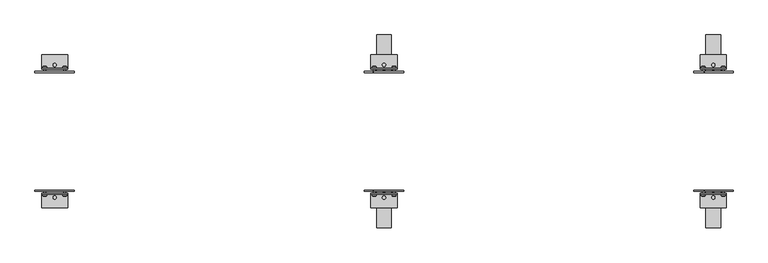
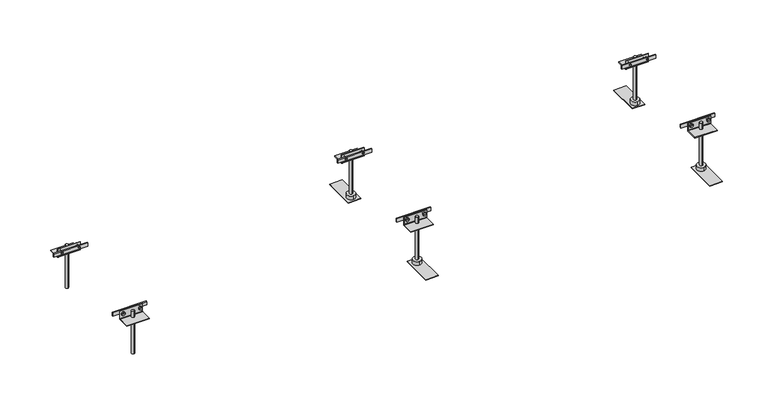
"""IFC4 building model written with IfcOpenShell, lengths in millimetres: proxy geometry, Electrical_Installation_Hager_BKF-Trunking-System-With-Flexible-Screed-Casing-For-Dry-Cleaned-Floors : Nominal Size 300  Length 2.4 m."""

from ifc_helpers import new_model, si_unit, point, frame, frame_2d, origin, place, context, project, spatial, polyline, circle_curve, ellipse_curve, trimmed, segment, composite_curve, outline, extrude, source, transform, mapped, element, save
from ifc_brep_helpers import plane_surface, cylinder_surface, revolved_surface, advanced_brep


def electrical_fixtures_acb858e2(model_context):
    return source(origin(), model_context, "Body", "SolidModel", [
        advanced_brep(
        [(1629.0575247, -156.6418922, 3.3), (1619.4769168, -156.6418922, 3.3), (1619.4769168, -154.7, 3.3), (1629.0575247, -154.7, 3.3), (1621.7042517, -154.7, 3.3), (1626.8301898, -154.7, 3.3), (1621.7042517, -142.7, 3.3), (1626.8301898, -142.7, 3.3), (1624.2672208, -142.7, 3.3), (1624.2672208, -158.3479209, 3.3)],
        [
            (0, 1, circle_curve(frame((1624.2672208, -156.6418922, 3.3), z_axis=(0.0, 1.0, 0.0), x_axis=(-1.0, 0.0, 0.0)), 4.790304)),
            (1, 2),
            (2, 3, circle_curve(frame((1624.2672208, -154.7, 3.3), z_axis=(0.0, -1.0, 0.0), x_axis=(-1.0, 0.0, 0.0)), 4.790304)),
            (3, 0),
            (1, 0, circle_curve(frame((1624.2672208, -156.6418922, 3.3), z_axis=(0.0, 1.0, 0.0), x_axis=(-1.0, 0.0, 0.0)), 4.790304)),
            (3, 2, circle_curve(frame((1624.2672208, -154.7, 3.3), z_axis=(0.0, -1.0, 0.0), x_axis=(-1.0, 0.0, 0.0)), 4.790304)),
            (2, 4),
            (4, 5, circle_curve(frame((1624.2672208, -154.7, 3.3), z_axis=(0.0, -1.0, 0.0), x_axis=(-1.0, 0.0, 0.0)), 2.562969)),
            (5, 3),
            (5, 4, circle_curve(frame((1624.2672208, -154.7, 3.3), z_axis=(0.0, -1.0, 0.0), x_axis=(-1.0, 0.0, 0.0)), 2.562969)),
            (4, 6),
            (6, 7, circle_curve(frame((1624.2672208, -142.7, 3.3), z_axis=(0.0, -1.0, 0.0), x_axis=(-1.0, 0.0, 0.0)), 2.562969)),
            (7, 5),
            (7, 6, circle_curve(frame((1624.2672208, -142.7, 3.3), z_axis=(0.0, -1.0, 0.0), x_axis=(-1.0, 0.0, 0.0)), 2.562969)),
            (6, 8),
            (8, 7),
            (9, 1, circle_curve(frame((1624.2353142, -150.8592246, 3.3), z_axis=(0.0, 0.0, -1.0), x_axis=(-1.0, 0.0, 0.0)), 7.4887643)),
            (0, 9, circle_curve(frame((1624.2991274, -150.8592246, 3.3), z_axis=(0.0, 0.0, -1.0), x_axis=(1.0, 0.0, 0.0)), 7.4887643)),
        ],
        [
            cylinder_surface(frame((1624.2672208, -154.2950786, 3.3), z_axis=(0.0, -1.0, 0.0), x_axis=(-1.0, 0.0, 0.0)), 4.790304),
            plane_surface(frame((1624.2672208, -154.7, 3.3), z_axis=(0.0, 1.0, 0.0), x_axis=(-1.0, 0.0, 0.0))),
            cylinder_surface(frame((1624.2672208, -154.2950786, 3.3), z_axis=(0.0, -1.0, 0.0), x_axis=(-1.0, 0.0, 0.0)), 2.562969),
            plane_surface(frame((1624.2672208, -142.7, 3.3), z_axis=(0.0, 1.0, 0.0), x_axis=(-1.0, 0.0, 0.0))),
            revolved_surface(trimmed(ellipse_curve(frame((1624.2353142, -150.8592246, 3.3), z_axis=(0.0, 0.0, 1.0), x_axis=(-1.0, 0.0, 0.0)), 7.4887643, 7.4887643), [point((1619.4769168, -156.6418922, 3.3))], [point((1624.2672208, -158.3479209, 3.3))], True, "CARTESIAN"), (1624.2672208, -154.2950786, 3.3), (0.0, -1.0, 0.0)),
        ],
        [
            (0, [[1, 2, 3, 4]]),
            (0, [[5, -4, 6, -2]]),
            (1, [[-3, 7, 8, 9]]),
            (1, [[-6, -9, 10, -7]]),
            (2, [[-8, 11, 12, 13]]),
            (2, [[-10, -13, 14, -11]]),
            (3, [[-12, 15, 16]]),
            (3, [[-14, -16, -15]]),
            (4, [[17, -1, 18]]),
            (4, [[-18, -5, -17]]),
        ],
    ),
        advanced_brep(
        [(1580.790304, -156.6418922, 3.3), (1571.209696, -156.6418922, 3.3), (1571.209696, -154.7, 3.3), (1580.790304, -154.7, 3.3), (1573.437031, -154.7, 3.3), (1578.562969, -154.7, 3.3), (1573.437031, -142.7, 3.3), (1578.562969, -142.7, 3.3), (1576.0, -142.7, 3.3), (1576.0, -158.3479209, 3.3)],
        [
            (0, 1, circle_curve(frame((1576.0, -156.6418922, 3.3), z_axis=(0.0, 1.0, 0.0), x_axis=(-1.0, 0.0, 0.0)), 4.790304)),
            (1, 2),
            (2, 3, circle_curve(frame((1576.0, -154.7, 3.3), z_axis=(0.0, -1.0, 0.0), x_axis=(-1.0, 0.0, 0.0)), 4.790304)),
            (3, 0),
            (1, 0, circle_curve(frame((1576.0, -156.6418922, 3.3), z_axis=(0.0, 1.0, 0.0), x_axis=(-1.0, 0.0, 0.0)), 4.790304)),
            (3, 2, circle_curve(frame((1576.0, -154.7, 3.3), z_axis=(0.0, -1.0, 0.0), x_axis=(-1.0, 0.0, 0.0)), 4.790304)),
            (2, 4),
            (4, 5, circle_curve(frame((1576.0, -154.7, 3.3), z_axis=(0.0, -1.0, 0.0), x_axis=(-1.0, 0.0, 0.0)), 2.562969)),
            (5, 3),
            (5, 4, circle_curve(frame((1576.0, -154.7, 3.3), z_axis=(0.0, -1.0, 0.0), x_axis=(-1.0, 0.0, 0.0)), 2.562969)),
            (4, 6),
            (6, 7, circle_curve(frame((1576.0, -142.7, 3.3), z_axis=(0.0, -1.0, 0.0), x_axis=(-1.0, 0.0, 0.0)), 2.562969)),
            (7, 5),
            (7, 6, circle_curve(frame((1576.0, -142.7, 3.3), z_axis=(0.0, -1.0, 0.0), x_axis=(-1.0, 0.0, 0.0)), 2.562969)),
            (6, 8),
            (8, 7),
            (9, 1, circle_curve(frame((1575.9680934, -150.8592246, 3.3), z_axis=(0.0, 0.0, -1.0), x_axis=(-1.0, 0.0, 0.0)), 7.4887643)),
            (0, 9, circle_curve(frame((1576.0319066, -150.8592246, 3.3), z_axis=(0.0, 0.0, -1.0), x_axis=(1.0, 0.0, 0.0)), 7.4887643)),
        ],
        [
            cylinder_surface(frame((1576.0, -154.2950786, 3.3), z_axis=(0.0, -1.0, 0.0), x_axis=(-1.0, 0.0, 0.0)), 4.790304),
            plane_surface(frame((1576.0, -154.7, 3.3), z_axis=(0.0, 1.0, 0.0), x_axis=(-1.0, 0.0, 0.0))),
            cylinder_surface(frame((1576.0, -154.2950786, 3.3), z_axis=(0.0, -1.0, 0.0), x_axis=(-1.0, 0.0, 0.0)), 2.562969),
            plane_surface(frame((1576.0, -142.7, 3.3), z_axis=(0.0, 1.0, 0.0), x_axis=(-1.0, 0.0, 0.0))),
            revolved_surface(trimmed(ellipse_curve(frame((1575.9680934, -150.8592246, 3.3), z_axis=(0.0, 0.0, 1.0), x_axis=(-1.0, 0.0, 0.0)), 7.4887643, 7.4887643), [point((1571.209696, -156.6418922, 3.3))], [point((1576.0, -158.3479209, 3.3))], True, "CARTESIAN"), (1576.0, -154.2950786, 3.3), (0.0, -1.0, 0.0)),
        ],
        [
            (0, [[1, 2, 3, 4]]),
            (0, [[5, -4, 6, -2]]),
            (1, [[-3, 7, 8, 9]]),
            (1, [[-6, -9, 10, -7]]),
            (2, [[-8, 11, 12, 13]]),
            (2, [[-10, -13, 14, -11]]),
            (3, [[-12, 15, 16]]),
            (3, [[-14, -16, -15]]),
            (4, [[17, -1, 18]]),
            (4, [[-18, -5, -17]]),
        ],
    ),
        advanced_brep(
        [(1629.0575247, 154.7, 3.3), (1619.4769168, 154.7, 3.3), (1619.4769168, 156.6418922, 3.3), (1629.0575247, 156.6418922, 3.3), (1626.8301898, 154.7, 3.3), (1621.7042517, 154.7, 3.3), (1626.8301898, 142.7, 3.3), (1621.7042517, 142.7, 3.3), (1624.2672208, 142.7, 3.3), (1624.2672208, 158.3479209, 3.3)],
        [
            (0, 1, circle_curve(frame((1624.2672208, 154.7, 3.3), z_axis=(0.0, 1.0, 0.0), x_axis=(-1.0, 0.0, 0.0)), 4.790304)),
            (1, 2),
            (2, 3, circle_curve(frame((1624.2672208, 156.6418922, 3.3), z_axis=(0.0, -1.0, 0.0), x_axis=(-1.0, 0.0, 0.0)), 4.790304)),
            (3, 0),
            (1, 0, circle_curve(frame((1624.2672208, 154.7, 3.3), z_axis=(0.0, 1.0, 0.0), x_axis=(-1.0, 0.0, 0.0)), 4.790304)),
            (3, 2, circle_curve(frame((1624.2672208, 156.6418922, 3.3), z_axis=(0.0, -1.0, 0.0), x_axis=(-1.0, 0.0, 0.0)), 4.790304)),
            (4, 5, circle_curve(frame((1624.2672208, 154.7, 3.3), z_axis=(0.0, 1.0, 0.0), x_axis=(-1.0, 0.0, 0.0)), 2.562969)),
            (5, 1),
            (0, 4),
            (5, 4, circle_curve(frame((1624.2672208, 154.7, 3.3), z_axis=(0.0, 1.0, 0.0), x_axis=(-1.0, 0.0, 0.0)), 2.562969)),
            (6, 7, circle_curve(frame((1624.2672208, 142.7, 3.3), z_axis=(0.0, 1.0, 0.0), x_axis=(-1.0, 0.0, 0.0)), 2.562969)),
            (7, 5),
            (4, 6),
            (7, 6, circle_curve(frame((1624.2672208, 142.7, 3.3), z_axis=(0.0, 1.0, 0.0), x_axis=(-1.0, 0.0, 0.0)), 2.562969)),
            (8, 7),
            (6, 8),
            (2, 9, circle_curve(frame((1624.2353142, 150.8592246, 3.3), z_axis=(0.0, 0.0, -1.0), x_axis=(-1.0, 0.0, 0.0)), 7.4887643)),
            (9, 3, circle_curve(frame((1624.2991274, 150.8592246, 3.3), z_axis=(0.0, 0.0, -1.0), x_axis=(1.0, 0.0, 0.0)), 7.4887643)),
        ],
        [
            cylinder_surface(frame((1624.2672208, 154.2950786, 3.3), z_axis=(0.0, -1.0, 0.0), x_axis=(-1.0, 0.0, 0.0)), 4.790304),
            plane_surface(frame((1624.2672208, 154.7, 3.3), z_axis=(0.0, -1.0, 0.0), x_axis=(-1.0, 0.0, 0.0))),
            cylinder_surface(frame((1624.2672208, 154.2950786, 3.3), z_axis=(0.0, -1.0, 0.0), x_axis=(-1.0, 0.0, 0.0)), 2.562969),
            plane_surface(frame((1624.2672208, 142.7, 3.3), z_axis=(0.0, -1.0, 0.0), x_axis=(-1.0, 0.0, 0.0))),
            revolved_surface(trimmed(ellipse_curve(frame((1624.2353142, 150.8592246, 3.3), z_axis=(0.0, 0.0, 1.0), x_axis=(-1.0, 0.0, 0.0)), 7.4887643, 7.4887643), [point((1624.2672208, 158.3479209, 3.3))], [point((1619.4769168, 156.6418922, 3.3))], True, "CARTESIAN"), (1624.2672208, 154.2950786, 3.3), (0.0, -1.0, 0.0)),
        ],
        [
            (0, [[1, 2, 3, 4]]),
            (0, [[5, -4, 6, -2]]),
            (1, [[7, 8, -1, 9]]),
            (1, [[10, -9, -5, -8]]),
            (2, [[11, 12, -7, 13]]),
            (2, [[14, -13, -10, -12]]),
            (3, [[15, -11, 16]]),
            (3, [[-16, -14, -15]]),
            (4, [[-3, 17, 18]]),
            (4, [[-6, -18, -17]]),
        ],
    ),
        advanced_brep(
        [(1580.790304, 154.7, 3.3), (1571.209696, 154.7, 3.3), (1571.209696, 156.6418922, 3.3), (1580.790304, 156.6418922, 3.3), (1578.562969, 154.7, 3.3), (1573.437031, 154.7, 3.3), (1578.562969, 142.7, 3.3), (1573.437031, 142.7, 3.3), (1576.0, 142.7, 3.3), (1576.0, 158.3479209, 3.3)],
        [
            (0, 1, circle_curve(frame((1576.0, 154.7, 3.3), z_axis=(0.0, 1.0, 0.0), x_axis=(-1.0, 0.0, 0.0)), 4.790304)),
            (1, 2),
            (2, 3, circle_curve(frame((1576.0, 156.6418922, 3.3), z_axis=(0.0, -1.0, 0.0), x_axis=(-1.0, 0.0, 0.0)), 4.790304)),
            (3, 0),
            (1, 0, circle_curve(frame((1576.0, 154.7, 3.3), z_axis=(0.0, 1.0, 0.0), x_axis=(-1.0, 0.0, 0.0)), 4.790304)),
            (3, 2, circle_curve(frame((1576.0, 156.6418922, 3.3), z_axis=(0.0, -1.0, 0.0), x_axis=(-1.0, 0.0, 0.0)), 4.790304)),
            (4, 5, circle_curve(frame((1576.0, 154.7, 3.3), z_axis=(0.0, 1.0, 0.0), x_axis=(-1.0, 0.0, 0.0)), 2.562969)),
            (5, 1),
            (0, 4),
            (5, 4, circle_curve(frame((1576.0, 154.7, 3.3), z_axis=(0.0, 1.0, 0.0), x_axis=(-1.0, 0.0, 0.0)), 2.562969)),
            (6, 7, circle_curve(frame((1576.0, 142.7, 3.3), z_axis=(0.0, 1.0, 0.0), x_axis=(-1.0, 0.0, 0.0)), 2.562969)),
            (7, 5),
            (4, 6),
            (7, 6, circle_curve(frame((1576.0, 142.7, 3.3), z_axis=(0.0, 1.0, 0.0), x_axis=(-1.0, 0.0, 0.0)), 2.562969)),
            (8, 7),
            (6, 8),
            (2, 9, circle_curve(frame((1575.9680934, 150.8592246, 3.3), z_axis=(0.0, 0.0, -1.0), x_axis=(-1.0, 0.0, 0.0)), 7.4887643)),
            (9, 3, circle_curve(frame((1576.0319066, 150.8592246, 3.3), z_axis=(0.0, 0.0, -1.0), x_axis=(1.0, 0.0, 0.0)), 7.4887643)),
        ],
        [
            cylinder_surface(frame((1576.0, 154.2950786, 3.3), z_axis=(0.0, -1.0, 0.0), x_axis=(-1.0, 0.0, 0.0)), 4.790304),
            plane_surface(frame((1576.0, 154.7, 3.3), z_axis=(0.0, -1.0, 0.0), x_axis=(-1.0, 0.0, 0.0))),
            cylinder_surface(frame((1576.0, 154.2950786, 3.3), z_axis=(0.0, -1.0, 0.0), x_axis=(-1.0, 0.0, 0.0)), 2.562969),
            plane_surface(frame((1576.0, 142.7, 3.3), z_axis=(0.0, -1.0, 0.0), x_axis=(-1.0, 0.0, 0.0))),
            revolved_surface(trimmed(ellipse_curve(frame((1575.9680934, 150.8592246, 3.3), z_axis=(0.0, 0.0, 1.0), x_axis=(-1.0, 0.0, 0.0)), 7.4887643, 7.4887643), [point((1576.0, 158.3479209, 3.3))], [point((1571.209696, 156.6418922, 3.3))], True, "CARTESIAN"), (1576.0, 154.2950786, 3.3), (0.0, -1.0, 0.0)),
        ],
        [
            (0, [[1, 2, 3, 4]]),
            (0, [[5, -4, 6, -2]]),
            (1, [[7, 8, -1, 9]]),
            (1, [[10, -9, -5, -8]]),
            (2, [[11, 12, -7, 13]]),
            (2, [[14, -13, -10, -12]]),
            (3, [[15, -11, 16]]),
            (3, [[-16, -14, -15]]),
            (4, [[-3, 17, 18]]),
            (4, [[-6, -18, -17]]),
        ],
    ),
        extrude(outline(polyline([(1552.0, 142.7), (1552.0, 145.7), (1648.0, 145.7), (1648.0, 142.7), (1552.0, 142.7)])), frame((0.0, 0.0, -1.7), z_axis=(0.0, 0.0, 1.0), x_axis=(1.0, 0.0, 0.0)), (0.0, 0.0, 1.0), 10.0),
        extrude(outline(polyline([(1552.0, -145.7), (1552.0, -142.7), (1648.0, -142.7), (1648.0, -145.7), (1552.0, -145.7)])), frame((0.0, 0.0, -1.7), z_axis=(0.0, 0.0, 1.0), x_axis=(1.0, 0.0, 0.0)), (0.0, 0.0, 1.0), 10.0),
        extrude(outline(composite_curve([segment(polyline([(150.6, 11.7), (152.6, 11.7), (152.6, -10.3088822)]), True, "CONTINUOUS"), segment(trimmed(circle_curve(frame_2d((153.5911178, -10.3088822)), 0.9911178), [point((152.6, -10.3088822))], [point((153.5911178, -11.3))], True, "CARTESIAN"), True, "CONTINUOUS"), segment(polyline([(153.5911178, -11.3), (185.6, -11.3), (185.6, -13.3), (153.6002521, -13.3)]), True, "CONTINUOUS"), segment(trimmed(circle_curve(frame_2d((153.6002521, -10.2997479)), 3.0002521), [point((153.6002521, -13.3))], [point((150.6, -10.2997479))], False, "CARTESIAN"), True, "CONTINUOUS"), segment(polyline([(150.6, -10.2997479), (150.6, 11.7)]), True, "CONTINUOUS")], self_intersect=False)), frame((1568.3, 0.0, 0.0), z_axis=(1.0, 0.0, 0.0), x_axis=(0.0, 1.0, 0.0)), (0.0, 0.0, 1.0), 63.4),
        extrude(outline(composite_curve([segment(polyline([(-150.6, 11.7), (-150.6, -10.2997479)]), True, "CONTINUOUS"), segment(trimmed(circle_curve(frame_2d((-153.6002521, -10.2997479)), 3.0002521), [point((-150.6, -10.2997479))], [point((-153.6002521, -13.3))], False, "CARTESIAN"), True, "CONTINUOUS"), segment(polyline([(-153.6002521, -13.3), (-185.6, -13.3), (-185.6, -11.3), (-153.5911178, -11.3)]), True, "CONTINUOUS"), segment(trimmed(circle_curve(frame_2d((-153.5911178, -10.3088822)), 0.9911178), [point((-153.5911178, -11.3))], [point((-152.6, -10.3088822))], True, "CARTESIAN"), True, "CONTINUOUS"), segment(polyline([(-152.6, -10.3088822), (-152.6, 11.7), (-150.6, 11.7)]), True, "CONTINUOUS")], self_intersect=False)), frame((1568.3, 0.0, 0.0), z_axis=(1.0, 0.0, 0.0), x_axis=(0.0, 1.0, 0.0)), (0.0, 0.0, 1.0), 63.4),
        extrude(outline(composite_curve([segment(trimmed(circle_curve(frame_2d((1600.0, 161.1712378)), 3.9923162), [point((1600.0, 165.163554))], [point((1600.0, 157.1789216))], False, "CARTESIAN"), True, "CONTINUOUS"), segment(trimmed(circle_curve(frame_2d((1600.0, 161.1712378)), 3.9923162), [point((1600.0, 157.1789216))], [point((1600.0, 165.163554))], False, "CARTESIAN"), True, "CONTINUOUS")], self_intersect=False)), frame((0.0, 0.0, -119.0), z_axis=(0.0, 0.0, 1.0), x_axis=(1.0, 0.0, 0.0)), (0.0, 0.0, 1.0), 126.8),
        extrude(outline(composite_curve([segment(trimmed(circle_curve(frame_2d((1600.0, -161.0787011)), 3.991847), [point((1600.0, -157.0868541))], [point((1600.0, -165.0705482))], False, "CARTESIAN"), True, "CONTINUOUS"), segment(trimmed(circle_curve(frame_2d((1600.0, -161.0787011)), 3.991847), [point((1600.0, -165.0705482))], [point((1600.0, -157.0868541))], False, "CARTESIAN"), True, "CONTINUOUS")], self_intersect=False)), frame((0.0, 0.0, -119.0), z_axis=(0.0, 0.0, 1.0), x_axis=(1.0, 0.0, 0.0)), (0.0, 0.0, 1.0), 126.8),
        extrude(outline(composite_curve([segment(trimmed(circle_curve(frame_2d((1600.0, 161.1652527)), 12.0), [point((1600.0, 173.1652527))], [point((1600.0, 149.1652527))], False, "CARTESIAN"), True, "CONTINUOUS"), segment(trimmed(circle_curve(frame_2d((1600.0, 161.1652527)), 12.0), [point((1600.0, 149.1652527))], [point((1600.0, 173.1652527))], False, "CARTESIAN"), True, "CONTINUOUS")], self_intersect=False)), frame((0.0, 0.0, -129.7), z_axis=(0.0, 0.0, 1.0), x_axis=(1.0, 0.0, 0.0)), (0.0, 0.0, 1.0), 10.7),
        extrude(outline(composite_curve([segment(trimmed(circle_curve(frame_2d((1600.0, -161.112037)), 12.0), [point((1600.0, -149.112037))], [point((1600.0, -173.112037))], False, "CARTESIAN"), True, "CONTINUOUS"), segment(trimmed(circle_curve(frame_2d((1600.0, -161.112037)), 12.0), [point((1600.0, -173.112037))], [point((1600.0, -149.112037))], False, "CARTESIAN"), True, "CONTINUOUS")], self_intersect=False)), frame((0.0, 0.0, -129.7), z_axis=(0.0, 0.0, 1.0), x_axis=(1.0, 0.0, 0.0)), (0.0, 0.0, 1.0), 10.7),
        extrude(outline(polyline([(1618.0, 144.1), (1582.0, 144.1), (1582.0, 234.1), (1618.0, 234.1), (1618.0, 144.1)])), frame((0.0, 0.0, -131.2), z_axis=(0.0, 0.0, 1.0), x_axis=(1.0, 0.0, 0.0)), (0.0, 0.0, 1.0), 1.5),
        extrude(outline(polyline([(1618.0, -234.1), (1582.0, -234.1), (1582.0, -144.1), (1618.0, -144.1), (1618.0, -234.1)])), frame((0.0, 0.0, -131.2), z_axis=(0.0, 0.0, 1.0), x_axis=(1.0, 0.0, 0.0)), (0.0, 0.0, 1.0), 1.5),
        advanced_brep(
        [(829.0575247, -156.6418922, 3.3), (819.4769168, -156.6418922, 3.3), (819.4769168, -154.7, 3.3), (829.0575247, -154.7, 3.3), (821.7042517, -154.7, 3.3), (826.8301898, -154.7, 3.3), (821.7042517, -142.7, 3.3), (826.8301898, -142.7, 3.3), (824.2672208, -142.7, 3.3), (824.2672208, -158.3479209, 3.3)],
        [
            (0, 1, circle_curve(frame((824.2672208, -156.6418922, 3.3), z_axis=(0.0, 1.0, 0.0), x_axis=(-1.0, 0.0, 0.0)), 4.790304)),
            (1, 2),
            (2, 3, circle_curve(frame((824.2672208, -154.7, 3.3), z_axis=(0.0, -1.0, 0.0), x_axis=(-1.0, 0.0, 0.0)), 4.790304)),
            (3, 0),
            (1, 0, circle_curve(frame((824.2672208, -156.6418922, 3.3), z_axis=(0.0, 1.0, 0.0), x_axis=(-1.0, 0.0, 0.0)), 4.790304)),
            (3, 2, circle_curve(frame((824.2672208, -154.7, 3.3), z_axis=(0.0, -1.0, 0.0), x_axis=(-1.0, 0.0, 0.0)), 4.790304)),
            (2, 4),
            (4, 5, circle_curve(frame((824.2672208, -154.7, 3.3), z_axis=(0.0, -1.0, 0.0), x_axis=(-1.0, 0.0, 0.0)), 2.562969)),
            (5, 3),
            (5, 4, circle_curve(frame((824.2672208, -154.7, 3.3), z_axis=(0.0, -1.0, 0.0), x_axis=(-1.0, 0.0, 0.0)), 2.562969)),
            (4, 6),
            (6, 7, circle_curve(frame((824.2672208, -142.7, 3.3), z_axis=(0.0, -1.0, 0.0), x_axis=(-1.0, 0.0, 0.0)), 2.562969)),
            (7, 5),
            (7, 6, circle_curve(frame((824.2672208, -142.7, 3.3), z_axis=(0.0, -1.0, 0.0), x_axis=(-1.0, 0.0, 0.0)), 2.562969)),
            (6, 8),
            (8, 7),
            (9, 1, circle_curve(frame((824.2353142, -150.8592246, 3.3), z_axis=(0.0, 0.0, -1.0), x_axis=(-1.0, 0.0, 0.0)), 7.4887643)),
            (0, 9, circle_curve(frame((824.2991274, -150.8592246, 3.3), z_axis=(0.0, 0.0, -1.0), x_axis=(1.0, 0.0, 0.0)), 7.4887643)),
        ],
        [
            cylinder_surface(frame((824.2672208, -154.2950786, 3.3), z_axis=(0.0, -1.0, 0.0), x_axis=(-1.0, 0.0, 0.0)), 4.790304),
            plane_surface(frame((824.2672208, -154.7, 3.3), z_axis=(0.0, 1.0, 0.0), x_axis=(-1.0, 0.0, 0.0))),
            cylinder_surface(frame((824.2672208, -154.2950786, 3.3), z_axis=(0.0, -1.0, 0.0), x_axis=(-1.0, 0.0, 0.0)), 2.562969),
            plane_surface(frame((824.2672208, -142.7, 3.3), z_axis=(0.0, 1.0, 0.0), x_axis=(-1.0, 0.0, 0.0))),
            revolved_surface(trimmed(ellipse_curve(frame((824.2353142, -150.8592246, 3.3), z_axis=(0.0, 0.0, 1.0), x_axis=(-1.0, 0.0, 0.0)), 7.4887643, 7.4887643), [point((819.4769168, -156.6418922, 3.3))], [point((824.2672208, -158.3479209, 3.3))], True, "CARTESIAN"), (824.2672208, -154.2950786, 3.3), (0.0, -1.0, 0.0)),
        ],
        [
            (0, [[1, 2, 3, 4]]),
            (0, [[5, -4, 6, -2]]),
            (1, [[-3, 7, 8, 9]]),
            (1, [[-6, -9, 10, -7]]),
            (2, [[-8, 11, 12, 13]]),
            (2, [[-10, -13, 14, -11]]),
            (3, [[-12, 15, 16]]),
            (3, [[-14, -16, -15]]),
            (4, [[17, -1, 18]]),
            (4, [[-18, -5, -17]]),
        ],
    ),
        advanced_brep(
        [(780.790304, -156.6418922, 3.3), (771.209696, -156.6418922, 3.3), (771.209696, -154.7, 3.3), (780.790304, -154.7, 3.3), (773.437031, -154.7, 3.3), (778.562969, -154.7, 3.3), (773.437031, -142.7, 3.3), (778.562969, -142.7, 3.3), (776.0, -142.7, 3.3), (776.0, -158.3479209, 3.3)],
        [
            (0, 1, circle_curve(frame((776.0, -156.6418922, 3.3), z_axis=(0.0, 1.0, 0.0), x_axis=(-1.0, 0.0, 0.0)), 4.790304)),
            (1, 2),
            (2, 3, circle_curve(frame((776.0, -154.7, 3.3), z_axis=(0.0, -1.0, 0.0), x_axis=(-1.0, 0.0, 0.0)), 4.790304)),
            (3, 0),
            (1, 0, circle_curve(frame((776.0, -156.6418922, 3.3), z_axis=(0.0, 1.0, 0.0), x_axis=(-1.0, 0.0, 0.0)), 4.790304)),
            (3, 2, circle_curve(frame((776.0, -154.7, 3.3), z_axis=(0.0, -1.0, 0.0), x_axis=(-1.0, 0.0, 0.0)), 4.790304)),
            (2, 4),
            (4, 5, circle_curve(frame((776.0, -154.7, 3.3), z_axis=(0.0, -1.0, 0.0), x_axis=(-1.0, 0.0, 0.0)), 2.562969)),
            (5, 3),
            (5, 4, circle_curve(frame((776.0, -154.7, 3.3), z_axis=(0.0, -1.0, 0.0), x_axis=(-1.0, 0.0, 0.0)), 2.562969)),
            (4, 6),
            (6, 7, circle_curve(frame((776.0, -142.7, 3.3), z_axis=(0.0, -1.0, 0.0), x_axis=(-1.0, 0.0, 0.0)), 2.562969)),
            (7, 5),
            (7, 6, circle_curve(frame((776.0, -142.7, 3.3), z_axis=(0.0, -1.0, 0.0), x_axis=(-1.0, 0.0, 0.0)), 2.562969)),
            (6, 8),
            (8, 7),
            (9, 1, circle_curve(frame((775.9680934, -150.8592246, 3.3), z_axis=(0.0, 0.0, -1.0), x_axis=(-1.0, 0.0, 0.0)), 7.4887643)),
            (0, 9, circle_curve(frame((776.0319066, -150.8592246, 3.3), z_axis=(0.0, 0.0, -1.0), x_axis=(1.0, 0.0, 0.0)), 7.4887643)),
        ],
        [
            cylinder_surface(frame((776.0, -154.2950786, 3.3), z_axis=(0.0, -1.0, 0.0), x_axis=(-1.0, 0.0, 0.0)), 4.790304),
            plane_surface(frame((776.0, -154.7, 3.3), z_axis=(0.0, 1.0, 0.0), x_axis=(-1.0, 0.0, 0.0))),
            cylinder_surface(frame((776.0, -154.2950786, 3.3), z_axis=(0.0, -1.0, 0.0), x_axis=(-1.0, 0.0, 0.0)), 2.562969),
            plane_surface(frame((776.0, -142.7, 3.3), z_axis=(0.0, 1.0, 0.0), x_axis=(-1.0, 0.0, 0.0))),
            revolved_surface(trimmed(ellipse_curve(frame((775.9680934, -150.8592246, 3.3), z_axis=(0.0, 0.0, 1.0), x_axis=(-1.0, 0.0, 0.0)), 7.4887643, 7.4887643), [point((771.209696, -156.6418922, 3.3))], [point((776.0, -158.3479209, 3.3))], True, "CARTESIAN"), (776.0, -154.2950786, 3.3), (0.0, -1.0, 0.0)),
        ],
        [
            (0, [[1, 2, 3, 4]]),
            (0, [[5, -4, 6, -2]]),
            (1, [[-3, 7, 8, 9]]),
            (1, [[-6, -9, 10, -7]]),
            (2, [[-8, 11, 12, 13]]),
            (2, [[-10, -13, 14, -11]]),
            (3, [[-12, 15, 16]]),
            (3, [[-14, -16, -15]]),
            (4, [[17, -1, 18]]),
            (4, [[-18, -5, -17]]),
        ],
    ),
        advanced_brep(
        [(829.0575247, 154.7, 3.3), (819.4769168, 154.7, 3.3), (819.4769168, 156.6418922, 3.3), (829.0575247, 156.6418922, 3.3), (826.8301898, 154.7, 3.3), (821.7042517, 154.7, 3.3), (826.8301898, 142.7, 3.3), (821.7042517, 142.7, 3.3), (824.2672208, 142.7, 3.3), (824.2672208, 158.3479209, 3.3)],
        [
            (0, 1, circle_curve(frame((824.2672208, 154.7, 3.3), z_axis=(0.0, 1.0, 0.0), x_axis=(-1.0, 0.0, 0.0)), 4.790304)),
            (1, 2),
            (2, 3, circle_curve(frame((824.2672208, 156.6418922, 3.3), z_axis=(0.0, -1.0, 0.0), x_axis=(-1.0, 0.0, 0.0)), 4.790304)),
            (3, 0),
            (1, 0, circle_curve(frame((824.2672208, 154.7, 3.3), z_axis=(0.0, 1.0, 0.0), x_axis=(-1.0, 0.0, 0.0)), 4.790304)),
            (3, 2, circle_curve(frame((824.2672208, 156.6418922, 3.3), z_axis=(0.0, -1.0, 0.0), x_axis=(-1.0, 0.0, 0.0)), 4.790304)),
            (4, 5, circle_curve(frame((824.2672208, 154.7, 3.3), z_axis=(0.0, 1.0, 0.0), x_axis=(-1.0, 0.0, 0.0)), 2.562969)),
            (5, 1),
            (0, 4),
            (5, 4, circle_curve(frame((824.2672208, 154.7, 3.3), z_axis=(0.0, 1.0, 0.0), x_axis=(-1.0, 0.0, 0.0)), 2.562969)),
            (6, 7, circle_curve(frame((824.2672208, 142.7, 3.3), z_axis=(0.0, 1.0, 0.0), x_axis=(-1.0, 0.0, 0.0)), 2.562969)),
            (7, 5),
            (4, 6),
            (7, 6, circle_curve(frame((824.2672208, 142.7, 3.3), z_axis=(0.0, 1.0, 0.0), x_axis=(-1.0, 0.0, 0.0)), 2.562969)),
            (8, 7),
            (6, 8),
            (2, 9, circle_curve(frame((824.2353142, 150.8592246, 3.3), z_axis=(0.0, 0.0, -1.0), x_axis=(-1.0, 0.0, 0.0)), 7.4887643)),
            (9, 3, circle_curve(frame((824.2991274, 150.8592246, 3.3), z_axis=(0.0, 0.0, -1.0), x_axis=(1.0, 0.0, 0.0)), 7.4887643)),
        ],
        [
            cylinder_surface(frame((824.2672208, 154.2950786, 3.3), z_axis=(0.0, -1.0, 0.0), x_axis=(-1.0, 0.0, 0.0)), 4.790304),
            plane_surface(frame((824.2672208, 154.7, 3.3), z_axis=(0.0, -1.0, 0.0), x_axis=(-1.0, 0.0, 0.0))),
            cylinder_surface(frame((824.2672208, 154.2950786, 3.3), z_axis=(0.0, -1.0, 0.0), x_axis=(-1.0, 0.0, 0.0)), 2.562969),
            plane_surface(frame((824.2672208, 142.7, 3.3), z_axis=(0.0, -1.0, 0.0), x_axis=(-1.0, 0.0, 0.0))),
            revolved_surface(trimmed(ellipse_curve(frame((824.2353142, 150.8592246, 3.3), z_axis=(0.0, 0.0, 1.0), x_axis=(-1.0, 0.0, 0.0)), 7.4887643, 7.4887643), [point((824.2672208, 158.3479209, 3.3))], [point((819.4769168, 156.6418922, 3.3))], True, "CARTESIAN"), (824.2672208, 154.2950786, 3.3), (0.0, -1.0, 0.0)),
        ],
        [
            (0, [[1, 2, 3, 4]]),
            (0, [[5, -4, 6, -2]]),
            (1, [[7, 8, -1, 9]]),
            (1, [[10, -9, -5, -8]]),
            (2, [[11, 12, -7, 13]]),
            (2, [[14, -13, -10, -12]]),
            (3, [[15, -11, 16]]),
            (3, [[-16, -14, -15]]),
            (4, [[-3, 17, 18]]),
            (4, [[-6, -18, -17]]),
        ],
    ),
        advanced_brep(
        [(780.790304, 154.7, 3.3), (771.209696, 154.7, 3.3), (771.209696, 156.6418922, 3.3), (780.790304, 156.6418922, 3.3), (778.562969, 154.7, 3.3), (773.437031, 154.7, 3.3), (778.562969, 142.7, 3.3), (773.437031, 142.7, 3.3), (776.0, 142.7, 3.3), (776.0, 158.3479209, 3.3)],
        [
            (0, 1, circle_curve(frame((776.0, 154.7, 3.3), z_axis=(0.0, 1.0, 0.0), x_axis=(-1.0, 0.0, 0.0)), 4.790304)),
            (1, 2),
            (2, 3, circle_curve(frame((776.0, 156.6418922, 3.3), z_axis=(0.0, -1.0, 0.0), x_axis=(-1.0, 0.0, 0.0)), 4.790304)),
            (3, 0),
            (1, 0, circle_curve(frame((776.0, 154.7, 3.3), z_axis=(0.0, 1.0, 0.0), x_axis=(-1.0, 0.0, 0.0)), 4.790304)),
            (3, 2, circle_curve(frame((776.0, 156.6418922, 3.3), z_axis=(0.0, -1.0, 0.0), x_axis=(-1.0, 0.0, 0.0)), 4.790304)),
            (4, 5, circle_curve(frame((776.0, 154.7, 3.3), z_axis=(0.0, 1.0, 0.0), x_axis=(-1.0, 0.0, 0.0)), 2.562969)),
            (5, 1),
            (0, 4),
            (5, 4, circle_curve(frame((776.0, 154.7, 3.3), z_axis=(0.0, 1.0, 0.0), x_axis=(-1.0, 0.0, 0.0)), 2.562969)),
            (6, 7, circle_curve(frame((776.0, 142.7, 3.3), z_axis=(0.0, 1.0, 0.0), x_axis=(-1.0, 0.0, 0.0)), 2.562969)),
            (7, 5),
            (4, 6),
            (7, 6, circle_curve(frame((776.0, 142.7, 3.3), z_axis=(0.0, 1.0, 0.0), x_axis=(-1.0, 0.0, 0.0)), 2.562969)),
            (8, 7),
            (6, 8),
            (2, 9, circle_curve(frame((775.9680934, 150.8592246, 3.3), z_axis=(0.0, 0.0, -1.0), x_axis=(-1.0, 0.0, 0.0)), 7.4887643)),
            (9, 3, circle_curve(frame((776.0319066, 150.8592246, 3.3), z_axis=(0.0, 0.0, -1.0), x_axis=(1.0, 0.0, 0.0)), 7.4887643)),
        ],
        [
            cylinder_surface(frame((776.0, 154.2950786, 3.3), z_axis=(0.0, -1.0, 0.0), x_axis=(-1.0, 0.0, 0.0)), 4.790304),
            plane_surface(frame((776.0, 154.7, 3.3), z_axis=(0.0, -1.0, 0.0), x_axis=(-1.0, 0.0, 0.0))),
            cylinder_surface(frame((776.0, 154.2950786, 3.3), z_axis=(0.0, -1.0, 0.0), x_axis=(-1.0, 0.0, 0.0)), 2.562969),
            plane_surface(frame((776.0, 142.7, 3.3), z_axis=(0.0, -1.0, 0.0), x_axis=(-1.0, 0.0, 0.0))),
            revolved_surface(trimmed(ellipse_curve(frame((775.9680934, 150.8592246, 3.3), z_axis=(0.0, 0.0, 1.0), x_axis=(-1.0, 0.0, 0.0)), 7.4887643, 7.4887643), [point((776.0, 158.3479209, 3.3))], [point((771.209696, 156.6418922, 3.3))], True, "CARTESIAN"), (776.0, 154.2950786, 3.3), (0.0, -1.0, 0.0)),
        ],
        [
            (0, [[1, 2, 3, 4]]),
            (0, [[5, -4, 6, -2]]),
            (1, [[7, 8, -1, 9]]),
            (1, [[10, -9, -5, -8]]),
            (2, [[11, 12, -7, 13]]),
            (2, [[14, -13, -10, -12]]),
            (3, [[15, -11, 16]]),
            (3, [[-16, -14, -15]]),
            (4, [[-3, 17, 18]]),
            (4, [[-6, -18, -17]]),
        ],
    ),
        extrude(outline(polyline([(752.0, 142.7), (752.0, 145.7), (848.0, 145.7), (848.0, 142.7), (752.0, 142.7)])), frame((0.0, 0.0, -1.7), z_axis=(0.0, 0.0, 1.0), x_axis=(1.0, 0.0, 0.0)), (0.0, 0.0, 1.0), 10.0),
        extrude(outline(polyline([(752.0, -145.7), (752.0, -142.7), (848.0, -142.7), (848.0, -145.7), (752.0, -145.7)])), frame((0.0, 0.0, -1.7), z_axis=(0.0, 0.0, 1.0), x_axis=(1.0, 0.0, 0.0)), (0.0, 0.0, 1.0), 10.0),
        extrude(outline(composite_curve([segment(polyline([(150.6, 11.7), (152.6, 11.7), (152.6, -10.3088822)]), True, "CONTINUOUS"), segment(trimmed(circle_curve(frame_2d((153.5911178, -10.3088822)), 0.9911178), [point((152.6, -10.3088822))], [point((153.5911178, -11.3))], True, "CARTESIAN"), True, "CONTINUOUS"), segment(polyline([(153.5911178, -11.3), (185.6, -11.3), (185.6, -13.3), (153.6002521, -13.3)]), True, "CONTINUOUS"), segment(trimmed(circle_curve(frame_2d((153.6002521, -10.2997479)), 3.0002521), [point((153.6002521, -13.3))], [point((150.6, -10.2997479))], False, "CARTESIAN"), True, "CONTINUOUS"), segment(polyline([(150.6, -10.2997479), (150.6, 11.7)]), True, "CONTINUOUS")], self_intersect=False)), frame((768.3, 0.0, 0.0), z_axis=(1.0, 0.0, 0.0), x_axis=(0.0, 1.0, 0.0)), (0.0, 0.0, 1.0), 63.4),
        extrude(outline(composite_curve([segment(polyline([(-150.6, 11.7), (-150.6, -10.2997479)]), True, "CONTINUOUS"), segment(trimmed(circle_curve(frame_2d((-153.6002521, -10.2997479)), 3.0002521), [point((-150.6, -10.2997479))], [point((-153.6002521, -13.3))], False, "CARTESIAN"), True, "CONTINUOUS"), segment(polyline([(-153.6002521, -13.3), (-185.6, -13.3), (-185.6, -11.3), (-153.5911178, -11.3)]), True, "CONTINUOUS"), segment(trimmed(circle_curve(frame_2d((-153.5911178, -10.3088822)), 0.9911178), [point((-153.5911178, -11.3))], [point((-152.6, -10.3088822))], True, "CARTESIAN"), True, "CONTINUOUS"), segment(polyline([(-152.6, -10.3088822), (-152.6, 11.7), (-150.6, 11.7)]), True, "CONTINUOUS")], self_intersect=False)), frame((768.3, 0.0, 0.0), z_axis=(1.0, 0.0, 0.0), x_axis=(0.0, 1.0, 0.0)), (0.0, 0.0, 1.0), 63.4),
        extrude(outline(composite_curve([segment(trimmed(circle_curve(frame_2d((800.0, 161.1712378)), 3.9923162), [point((800.0, 165.163554))], [point((800.0, 157.1789216))], False, "CARTESIAN"), True, "CONTINUOUS"), segment(trimmed(circle_curve(frame_2d((800.0, 161.1712378)), 3.9923162), [point((800.0, 157.1789216))], [point((800.0, 165.163554))], False, "CARTESIAN"), True, "CONTINUOUS")], self_intersect=False)), frame((0.0, 0.0, -119.0), z_axis=(0.0, 0.0, 1.0), x_axis=(1.0, 0.0, 0.0)), (0.0, 0.0, 1.0), 126.8),
        extrude(outline(composite_curve([segment(trimmed(circle_curve(frame_2d((800.0, -161.0787011)), 3.991847), [point((800.0, -157.0868541))], [point((800.0, -165.0705482))], False, "CARTESIAN"), True, "CONTINUOUS"), segment(trimmed(circle_curve(frame_2d((800.0, -161.0787011)), 3.991847), [point((800.0, -165.0705482))], [point((800.0, -157.0868541))], False, "CARTESIAN"), True, "CONTINUOUS")], self_intersect=False)), frame((0.0, 0.0, -119.0), z_axis=(0.0, 0.0, 1.0), x_axis=(1.0, 0.0, 0.0)), (0.0, 0.0, 1.0), 126.8),
        extrude(outline(composite_curve([segment(trimmed(circle_curve(frame_2d((800.0, 161.1652527)), 12.0), [point((800.0, 173.1652527))], [point((800.0, 149.1652527))], False, "CARTESIAN"), True, "CONTINUOUS"), segment(trimmed(circle_curve(frame_2d((800.0, 161.1652527)), 12.0), [point((800.0, 149.1652527))], [point((800.0, 173.1652527))], False, "CARTESIAN"), True, "CONTINUOUS")], self_intersect=False)), frame((0.0, 0.0, -129.7), z_axis=(0.0, 0.0, 1.0), x_axis=(1.0, 0.0, 0.0)), (0.0, 0.0, 1.0), 10.7),
        extrude(outline(composite_curve([segment(trimmed(circle_curve(frame_2d((800.0, -161.112037)), 12.0), [point((800.0, -149.112037))], [point((800.0, -173.112037))], False, "CARTESIAN"), True, "CONTINUOUS"), segment(trimmed(circle_curve(frame_2d((800.0, -161.112037)), 12.0), [point((800.0, -173.112037))], [point((800.0, -149.112037))], False, "CARTESIAN"), True, "CONTINUOUS")], self_intersect=False)), frame((0.0, 0.0, -129.7), z_axis=(0.0, 0.0, 1.0), x_axis=(1.0, 0.0, 0.0)), (0.0, 0.0, 1.0), 10.7),
        extrude(outline(polyline([(818.0, 144.1), (782.0, 144.1), (782.0, 234.1), (818.0, 234.1), (818.0, 144.1)])), frame((0.0, 0.0, -131.2), z_axis=(0.0, 0.0, 1.0), x_axis=(1.0, 0.0, 0.0)), (0.0, 0.0, 1.0), 1.5),
        extrude(outline(polyline([(818.0, -234.1), (782.0, -234.1), (782.0, -144.1), (818.0, -144.1), (818.0, -234.1)])), frame((0.0, 0.0, -131.2), z_axis=(0.0, 0.0, 1.0), x_axis=(1.0, 0.0, 0.0)), (0.0, 0.0, 1.0), 1.5),
        advanced_brep(
        [(29.0575247, -156.6418922, 3.3), (19.4769168, -156.6418922, 3.3), (19.4769168, -154.7, 3.3), (29.0575247, -154.7, 3.3), (21.7042517, -154.7, 3.3), (26.8301898, -154.7, 3.3), (21.7042517, -142.7, 3.3), (26.8301898, -142.7, 3.3), (24.2672208, -142.7, 3.3), (24.2672208, -158.3479209, 3.3)],
        [
            (0, 1, circle_curve(frame((24.2672208, -156.6418922, 3.3), z_axis=(0.0, 1.0, 0.0), x_axis=(-1.0, 0.0, 0.0)), 4.790304)),
            (1, 2),
            (2, 3, circle_curve(frame((24.2672208, -154.7, 3.3), z_axis=(0.0, -1.0, 0.0), x_axis=(-1.0, 0.0, 0.0)), 4.790304)),
            (3, 0),
            (1, 0, circle_curve(frame((24.2672208, -156.6418922, 3.3), z_axis=(0.0, 1.0, 0.0), x_axis=(-1.0, 0.0, 0.0)), 4.790304)),
            (3, 2, circle_curve(frame((24.2672208, -154.7, 3.3), z_axis=(0.0, -1.0, 0.0), x_axis=(-1.0, 0.0, 0.0)), 4.790304)),
            (2, 4),
            (4, 5, circle_curve(frame((24.2672208, -154.7, 3.3), z_axis=(0.0, -1.0, 0.0), x_axis=(-1.0, 0.0, 0.0)), 2.562969)),
            (5, 3),
            (5, 4, circle_curve(frame((24.2672208, -154.7, 3.3), z_axis=(0.0, -1.0, 0.0), x_axis=(-1.0, 0.0, 0.0)), 2.562969)),
            (4, 6),
            (6, 7, circle_curve(frame((24.2672208, -142.7, 3.3), z_axis=(0.0, -1.0, 0.0), x_axis=(-1.0, 0.0, 0.0)), 2.562969)),
            (7, 5),
            (7, 6, circle_curve(frame((24.2672208, -142.7, 3.3), z_axis=(0.0, -1.0, 0.0), x_axis=(-1.0, 0.0, 0.0)), 2.562969)),
            (6, 8),
            (8, 7),
            (9, 1, circle_curve(frame((24.2353142, -150.8592246, 3.3), z_axis=(0.0, 0.0, -1.0), x_axis=(-1.0, 0.0, 0.0)), 7.4887643)),
            (0, 9, circle_curve(frame((24.2991274, -150.8592246, 3.3), z_axis=(0.0, 0.0, -1.0), x_axis=(1.0, 0.0, 0.0)), 7.4887643)),
        ],
        [
            cylinder_surface(frame((24.2672208, -154.2950786, 3.3), z_axis=(0.0, -1.0, 0.0), x_axis=(-1.0, 0.0, 0.0)), 4.790304),
            plane_surface(frame((24.2672208, -154.7, 3.3), z_axis=(0.0, 1.0, 0.0), x_axis=(-1.0, 0.0, 0.0))),
            cylinder_surface(frame((24.2672208, -154.2950786, 3.3), z_axis=(0.0, -1.0, 0.0), x_axis=(-1.0, 0.0, 0.0)), 2.562969),
            plane_surface(frame((24.2672208, -142.7, 3.3), z_axis=(0.0, 1.0, 0.0), x_axis=(-1.0, 0.0, 0.0))),
            revolved_surface(trimmed(ellipse_curve(frame((24.2353142, -150.8592246, 3.3), z_axis=(0.0, 0.0, 1.0), x_axis=(-1.0, 0.0, 0.0)), 7.4887643, 7.4887643), [point((19.4769168, -156.6418922, 3.3))], [point((24.2672208, -158.3479209, 3.3))], True, "CARTESIAN"), (24.2672208, -154.2950786, 3.3), (0.0, -1.0, 0.0)),
        ],
        [
            (0, [[1, 2, 3, 4]]),
            (0, [[5, -4, 6, -2]]),
            (1, [[-3, 7, 8, 9]]),
            (1, [[-6, -9, 10, -7]]),
            (2, [[-8, 11, 12, 13]]),
            (2, [[-10, -13, 14, -11]]),
            (3, [[-12, 15, 16]]),
            (3, [[-14, -16, -15]]),
            (4, [[17, -1, 18]]),
            (4, [[-18, -5, -17]]),
        ],
    ),
        advanced_brep(
        [(-19.209696, -156.6418922, 3.3), (-28.790304, -156.6418922, 3.3), (-28.790304, -154.7, 3.3), (-19.209696, -154.7, 3.3), (-26.562969, -154.7, 3.3), (-21.437031, -154.7, 3.3), (-26.562969, -142.7, 3.3), (-21.437031, -142.7, 3.3), (-24.0, -142.7, 3.3), (-24.0, -158.3479209, 3.3)],
        [
            (0, 1, circle_curve(frame((-24.0, -156.6418922, 3.3), z_axis=(0.0, 1.0, 0.0), x_axis=(-1.0, 0.0, 0.0)), 4.790304)),
            (1, 2),
            (2, 3, circle_curve(frame((-24.0, -154.7, 3.3), z_axis=(0.0, -1.0, 0.0), x_axis=(-1.0, 0.0, 0.0)), 4.790304)),
            (3, 0),
            (1, 0, circle_curve(frame((-24.0, -156.6418922, 3.3), z_axis=(0.0, 1.0, 0.0), x_axis=(-1.0, 0.0, 0.0)), 4.790304)),
            (3, 2, circle_curve(frame((-24.0, -154.7, 3.3), z_axis=(0.0, -1.0, 0.0), x_axis=(-1.0, 0.0, 0.0)), 4.790304)),
            (2, 4),
            (4, 5, circle_curve(frame((-24.0, -154.7, 3.3), z_axis=(0.0, -1.0, 0.0), x_axis=(-1.0, 0.0, 0.0)), 2.562969)),
            (5, 3),
            (5, 4, circle_curve(frame((-24.0, -154.7, 3.3), z_axis=(0.0, -1.0, 0.0), x_axis=(-1.0, 0.0, 0.0)), 2.562969)),
            (4, 6),
            (6, 7, circle_curve(frame((-24.0, -142.7, 3.3), z_axis=(0.0, -1.0, 0.0), x_axis=(-1.0, 0.0, 0.0)), 2.562969)),
            (7, 5),
            (7, 6, circle_curve(frame((-24.0, -142.7, 3.3), z_axis=(0.0, -1.0, 0.0), x_axis=(-1.0, 0.0, 0.0)), 2.562969)),
            (6, 8),
            (8, 7),
            (9, 1, circle_curve(frame((-24.0319066, -150.8592246, 3.3), z_axis=(0.0, 0.0, -1.0), x_axis=(-1.0, 0.0, 0.0)), 7.4887643)),
            (0, 9, circle_curve(frame((-23.9680934, -150.8592246, 3.3), z_axis=(0.0, 0.0, -1.0), x_axis=(1.0, 0.0, 0.0)), 7.4887643)),
        ],
        [
            cylinder_surface(frame((-24.0, -154.2950786, 3.3), z_axis=(0.0, -1.0, 0.0), x_axis=(-1.0, 0.0, 0.0)), 4.790304),
            plane_surface(frame((-24.0, -154.7, 3.3), z_axis=(0.0, 1.0, 0.0), x_axis=(-1.0, 0.0, 0.0))),
            cylinder_surface(frame((-24.0, -154.2950786, 3.3), z_axis=(0.0, -1.0, 0.0), x_axis=(-1.0, 0.0, 0.0)), 2.562969),
            plane_surface(frame((-24.0, -142.7, 3.3), z_axis=(0.0, 1.0, 0.0), x_axis=(-1.0, 0.0, 0.0))),
            revolved_surface(trimmed(ellipse_curve(frame((-24.0319066, -150.8592246, 3.3), z_axis=(0.0, 0.0, 1.0), x_axis=(-1.0, 0.0, 0.0)), 7.4887643, 7.4887643), [point((-28.790304, -156.6418922, 3.3))], [point((-24.0, -158.3479209, 3.3))], True, "CARTESIAN"), (-24.0, -154.2950786, 3.3), (0.0, -1.0, 0.0)),
        ],
        [
            (0, [[1, 2, 3, 4]]),
            (0, [[5, -4, 6, -2]]),
            (1, [[-3, 7, 8, 9]]),
            (1, [[-6, -9, 10, -7]]),
            (2, [[-8, 11, 12, 13]]),
            (2, [[-10, -13, 14, -11]]),
            (3, [[-12, 15, 16]]),
            (3, [[-14, -16, -15]]),
            (4, [[17, -1, 18]]),
            (4, [[-18, -5, -17]]),
        ],
    ),
        advanced_brep(
        [(29.0575247, 154.7, 3.3), (19.4769168, 154.7, 3.3), (19.4769168, 156.6418922, 3.3), (29.0575247, 156.6418922, 3.3), (26.8301898, 154.7, 3.3), (21.7042517, 154.7, 3.3), (26.8301898, 142.7, 3.3), (21.7042517, 142.7, 3.3), (24.2672208, 142.7, 3.3), (24.2672208, 158.3479209, 3.3)],
        [
            (0, 1, circle_curve(frame((24.2672208, 154.7, 3.3), z_axis=(0.0, 1.0, 0.0), x_axis=(-1.0, 0.0, 0.0)), 4.790304)),
            (1, 2),
            (2, 3, circle_curve(frame((24.2672208, 156.6418922, 3.3), z_axis=(0.0, -1.0, 0.0), x_axis=(-1.0, 0.0, 0.0)), 4.790304)),
            (3, 0),
            (1, 0, circle_curve(frame((24.2672208, 154.7, 3.3), z_axis=(0.0, 1.0, 0.0), x_axis=(-1.0, 0.0, 0.0)), 4.790304)),
            (3, 2, circle_curve(frame((24.2672208, 156.6418922, 3.3), z_axis=(0.0, -1.0, 0.0), x_axis=(-1.0, 0.0, 0.0)), 4.790304)),
            (4, 5, circle_curve(frame((24.2672208, 154.7, 3.3), z_axis=(0.0, 1.0, 0.0), x_axis=(-1.0, 0.0, 0.0)), 2.562969)),
            (5, 1),
            (0, 4),
            (5, 4, circle_curve(frame((24.2672208, 154.7, 3.3), z_axis=(0.0, 1.0, 0.0), x_axis=(-1.0, 0.0, 0.0)), 2.562969)),
            (6, 7, circle_curve(frame((24.2672208, 142.7, 3.3), z_axis=(0.0, 1.0, 0.0), x_axis=(-1.0, 0.0, 0.0)), 2.562969)),
            (7, 5),
            (4, 6),
            (7, 6, circle_curve(frame((24.2672208, 142.7, 3.3), z_axis=(0.0, 1.0, 0.0), x_axis=(-1.0, 0.0, 0.0)), 2.562969)),
            (8, 7),
            (6, 8),
            (2, 9, circle_curve(frame((24.2353142, 150.8592246, 3.3), z_axis=(0.0, 0.0, -1.0), x_axis=(-1.0, 0.0, 0.0)), 7.4887643)),
            (9, 3, circle_curve(frame((24.2991274, 150.8592246, 3.3), z_axis=(0.0, 0.0, -1.0), x_axis=(1.0, 0.0, 0.0)), 7.4887643)),
        ],
        [
            cylinder_surface(frame((24.2672208, 154.2950786, 3.3), z_axis=(0.0, -1.0, 0.0), x_axis=(-1.0, 0.0, 0.0)), 4.790304),
            plane_surface(frame((24.2672208, 154.7, 3.3), z_axis=(0.0, -1.0, 0.0), x_axis=(-1.0, 0.0, 0.0))),
            cylinder_surface(frame((24.2672208, 154.2950786, 3.3), z_axis=(0.0, -1.0, 0.0), x_axis=(-1.0, 0.0, 0.0)), 2.562969),
            plane_surface(frame((24.2672208, 142.7, 3.3), z_axis=(0.0, -1.0, 0.0), x_axis=(-1.0, 0.0, 0.0))),
            revolved_surface(trimmed(ellipse_curve(frame((24.2353142, 150.8592246, 3.3), z_axis=(0.0, 0.0, 1.0), x_axis=(-1.0, 0.0, 0.0)), 7.4887643, 7.4887643), [point((24.2672208, 158.3479209, 3.3))], [point((19.4769168, 156.6418922, 3.3))], True, "CARTESIAN"), (24.2672208, 154.2950786, 3.3), (0.0, -1.0, 0.0)),
        ],
        [
            (0, [[1, 2, 3, 4]]),
            (0, [[5, -4, 6, -2]]),
            (1, [[7, 8, -1, 9]]),
            (1, [[10, -9, -5, -8]]),
            (2, [[11, 12, -7, 13]]),
            (2, [[14, -13, -10, -12]]),
            (3, [[15, -11, 16]]),
            (3, [[-16, -14, -15]]),
            (4, [[-3, 17, 18]]),
            (4, [[-6, -18, -17]]),
        ],
    ),
        advanced_brep(
        [(-19.209696, 154.7, 3.3), (-28.790304, 154.7, 3.3), (-28.790304, 156.6418922, 3.3), (-19.209696, 156.6418922, 3.3), (-21.437031, 154.7, 3.3), (-26.562969, 154.7, 3.3), (-21.437031, 142.7, 3.3), (-26.562969, 142.7, 3.3), (-24.0, 142.7, 3.3), (-24.0, 158.3479209, 3.3)],
        [
            (0, 1, circle_curve(frame((-24.0, 154.7, 3.3), z_axis=(0.0, 1.0, 0.0), x_axis=(-1.0, 0.0, 0.0)), 4.790304)),
            (1, 2),
            (2, 3, circle_curve(frame((-24.0, 156.6418922, 3.3), z_axis=(0.0, -1.0, 0.0), x_axis=(-1.0, 0.0, 0.0)), 4.790304)),
            (3, 0),
            (1, 0, circle_curve(frame((-24.0, 154.7, 3.3), z_axis=(0.0, 1.0, 0.0), x_axis=(-1.0, 0.0, 0.0)), 4.790304)),
            (3, 2, circle_curve(frame((-24.0, 156.6418922, 3.3), z_axis=(0.0, -1.0, 0.0), x_axis=(-1.0, 0.0, 0.0)), 4.790304)),
            (4, 5, circle_curve(frame((-24.0, 154.7, 3.3), z_axis=(0.0, 1.0, 0.0), x_axis=(-1.0, 0.0, 0.0)), 2.562969)),
            (5, 1),
            (0, 4),
            (5, 4, circle_curve(frame((-24.0, 154.7, 3.3), z_axis=(0.0, 1.0, 0.0), x_axis=(-1.0, 0.0, 0.0)), 2.562969)),
            (6, 7, circle_curve(frame((-24.0, 142.7, 3.3), z_axis=(0.0, 1.0, 0.0), x_axis=(-1.0, 0.0, 0.0)), 2.562969)),
            (7, 5),
            (4, 6),
            (7, 6, circle_curve(frame((-24.0, 142.7, 3.3), z_axis=(0.0, 1.0, 0.0), x_axis=(-1.0, 0.0, 0.0)), 2.562969)),
            (8, 7),
            (6, 8),
            (2, 9, circle_curve(frame((-24.0319066, 150.8592246, 3.3), z_axis=(0.0, 0.0, -1.0), x_axis=(-1.0, 0.0, 0.0)), 7.4887643)),
            (9, 3, circle_curve(frame((-23.9680934, 150.8592246, 3.3), z_axis=(0.0, 0.0, -1.0), x_axis=(1.0, 0.0, 0.0)), 7.4887643)),
        ],
        [
            cylinder_surface(frame((-24.0, 154.2950786, 3.3), z_axis=(0.0, -1.0, 0.0), x_axis=(-1.0, 0.0, 0.0)), 4.790304),
            plane_surface(frame((-24.0, 154.7, 3.3), z_axis=(0.0, -1.0, 0.0), x_axis=(-1.0, 0.0, 0.0))),
            cylinder_surface(frame((-24.0, 154.2950786, 3.3), z_axis=(0.0, -1.0, 0.0), x_axis=(-1.0, 0.0, 0.0)), 2.562969),
            plane_surface(frame((-24.0, 142.7, 3.3), z_axis=(0.0, -1.0, 0.0), x_axis=(-1.0, 0.0, 0.0))),
            revolved_surface(trimmed(ellipse_curve(frame((-24.0319066, 150.8592246, 3.3), z_axis=(0.0, 0.0, 1.0), x_axis=(-1.0, 0.0, 0.0)), 7.4887643, 7.4887643), [point((-24.0, 158.3479209, 3.3))], [point((-28.790304, 156.6418922, 3.3))], True, "CARTESIAN"), (-24.0, 154.2950786, 3.3), (0.0, -1.0, 0.0)),
        ],
        [
            (0, [[1, 2, 3, 4]]),
            (0, [[5, -4, 6, -2]]),
            (1, [[7, 8, -1, 9]]),
            (1, [[10, -9, -5, -8]]),
            (2, [[11, 12, -7, 13]]),
            (2, [[14, -13, -10, -12]]),
            (3, [[15, -11, 16]]),
            (3, [[-16, -14, -15]]),
            (4, [[-3, 17, 18]]),
            (4, [[-6, -18, -17]]),
        ],
    ),
        extrude(outline(polyline([(-48.0, 142.7), (-48.0, 145.7), (48.0, 145.7), (48.0, 142.7), (-48.0, 142.7)])), frame((0.0, 0.0, -1.7), z_axis=(0.0, 0.0, 1.0), x_axis=(1.0, 0.0, 0.0)), (0.0, 0.0, 1.0), 10.0),
        extrude(outline(polyline([(-48.0, -145.7), (-48.0, -142.7), (48.0, -142.7), (48.0, -145.7), (-48.0, -145.7)])), frame((0.0, 0.0, -1.7), z_axis=(0.0, 0.0, 1.0), x_axis=(1.0, 0.0, 0.0)), (0.0, 0.0, 1.0), 10.0),
        extrude(outline(composite_curve([segment(polyline([(150.6, 11.7), (152.6, 11.7), (152.6, -10.3088822)]), True, "CONTINUOUS"), segment(trimmed(circle_curve(frame_2d((153.5911178, -10.3088822)), 0.9911178), [point((152.6, -10.3088822))], [point((153.5911178, -11.3))], True, "CARTESIAN"), True, "CONTINUOUS"), segment(polyline([(153.5911178, -11.3), (185.6, -11.3), (185.6, -13.3), (153.6002521, -13.3)]), True, "CONTINUOUS"), segment(trimmed(circle_curve(frame_2d((153.6002521, -10.2997479)), 3.0002521), [point((153.6002521, -13.3))], [point((150.6, -10.2997479))], False, "CARTESIAN"), True, "CONTINUOUS"), segment(polyline([(150.6, -10.2997479), (150.6, 11.7)]), True, "CONTINUOUS")], self_intersect=False)), frame((-31.7, 0.0, 0.0), z_axis=(1.0, 0.0, 0.0), x_axis=(0.0, 1.0, 0.0)), (0.0, 0.0, 1.0), 63.4),
        extrude(outline(composite_curve([segment(polyline([(-150.6, 11.7), (-150.6, -10.2997479)]), True, "CONTINUOUS"), segment(trimmed(circle_curve(frame_2d((-153.6002521, -10.2997479)), 3.0002521), [point((-150.6, -10.2997479))], [point((-153.6002521, -13.3))], False, "CARTESIAN"), True, "CONTINUOUS"), segment(polyline([(-153.6002521, -13.3), (-185.6, -13.3), (-185.6, -11.3), (-153.5911178, -11.3)]), True, "CONTINUOUS"), segment(trimmed(circle_curve(frame_2d((-153.5911178, -10.3088822)), 0.9911178), [point((-153.5911178, -11.3))], [point((-152.6, -10.3088822))], True, "CARTESIAN"), True, "CONTINUOUS"), segment(polyline([(-152.6, -10.3088822), (-152.6, 11.7), (-150.6, 11.7)]), True, "CONTINUOUS")], self_intersect=False)), frame((-31.7, 0.0, 0.0), z_axis=(1.0, 0.0, 0.0), x_axis=(0.0, 1.0, 0.0)), (0.0, 0.0, 1.0), 63.4),
        extrude(outline(composite_curve([segment(trimmed(circle_curve(frame_2d((0.0, 161.1712378)), 3.9923162), [point((0.0, 165.163554))], [point((0.0, 157.1789216))], False, "CARTESIAN"), True, "CONTINUOUS"), segment(trimmed(circle_curve(frame_2d((0.0, 161.1712378)), 3.9923162), [point((0.0, 157.1789216))], [point((0.0, 165.163554))], False, "CARTESIAN"), True, "CONTINUOUS")], self_intersect=False)), frame((0.0, 0.0, -119.0), z_axis=(0.0, 0.0, 1.0), x_axis=(1.0, 0.0, 0.0)), (0.0, 0.0, 1.0), 126.8),
        extrude(outline(composite_curve([segment(trimmed(circle_curve(frame_2d((0.0, -161.0787011)), 3.991847), [point((0.0, -157.0868541))], [point((0.0, -165.0705482))], False, "CARTESIAN"), True, "CONTINUOUS"), segment(trimmed(circle_curve(frame_2d((0.0, -161.0787011)), 3.991847), [point((0.0, -165.0705482))], [point((0.0, -157.0868541))], False, "CARTESIAN"), True, "CONTINUOUS")], self_intersect=False)), frame((0.0, 0.0, -119.0), z_axis=(0.0, 0.0, 1.0), x_axis=(1.0, 0.0, 0.0)), (0.0, 0.0, 1.0), 126.8),
    ])


if __name__ == "__main__":
    model = new_model("IFC4")
    model_context = context("Model", 3, world=origin())
    ifc_project = project(units=[si_unit("LENGTHUNIT", "METRE", prefix="MILLI")], contexts=[model_context])
    site = spatial("IfcSite", under=ifc_project)
    building = spatial("IfcBuilding", under=site)
    placement = place(None, origin())
    electrical_fixtures_shape = electrical_fixtures_acb858e2(model_context)
    element("IfcBuildingElementProxy", 1, Name="Electrical_Installation_Hager_BKF-Trunking-System-With-Flexible-Screed-Casing-For-Dry-Cleaned-Floors : Nominal Size 300  Length 2.4 m", ObjectType="Electrical_Installation_Hager_BKF-Trunking-System-With-Flexible-Screed-Casing-For-Dry-Cleaned-Floors : Nominal Size 300  Length 2.4 m", at=placement, inside=building, context=model_context, shape_type="MappedRepresentation", body=[
        mapped(electrical_fixtures_shape, transform((0.0, 0.0, 0.0), x_axis=(1.0, 0.0, 0.0), y_axis=(0.0, 1.0, 0.0), z_axis=(0.0, 0.0, 1.0))),
    ])
    save(model, "model.ifc")
